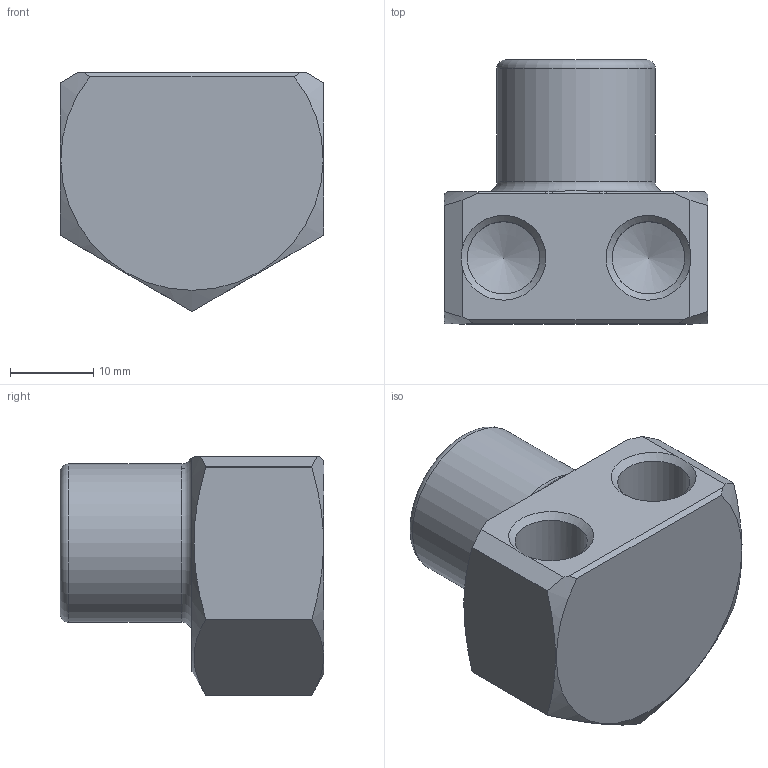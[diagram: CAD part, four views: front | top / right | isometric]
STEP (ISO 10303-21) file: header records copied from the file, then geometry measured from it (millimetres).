
FILE_DESCRIPTION(/* description */ (''),/* implementation_level */ '2;1');
FILE_NAME(/* name */ 'C:/Users/drich/Desktop/ET1418H v3.step',/* time_stamp */ '2019-11-18T13:37:41-06:00',/* author */ (''),/* organization */ (''),/* preprocessor_version */ 'ST-DEVELOPER v18',/* originating_system */ 'Autodesk Translation Framework v8.12.0.6',/* authorisation */ '');
FILE_SCHEMA (('AUTOMOTIVE_DESIGN { 1 0 10303 214 3 1 1 }'));
Length unit declared in the file: inch
Products named in the file (3): ET1418H; ET1418H_1; ET1418 INSERT
Assembly tree (2 placements, depth 2):
  ET1418H
    ET1418H_1
    ET1418 INSERT
Bounding box: 31.75 x 31.75 x 28.74 mm (x, y, z)
Volume: 12246.8 mm3; surface area: 6631.4 mm2
Topology: 2 solids, 2 shells, 89 faces, 249 edges, 162 vertices
Faces by surface type: cylinder 40, plane 20, cone 14, bspline 9, torus 6
Full cylindrical faces by diameter (mm): 6.909 x5, 7.938 x4, 8.707 x2, 10.998 x1, 11.062 x1, 11.668 x1, 19.05 x1
Entity records: 4221 total; most frequent: CARTESIAN_POINT 2032, ORIENTED_EDGE 492, DIRECTION 385, EDGE_CURVE 246, AXIS2_PLACEMENT_3D 163, VERTEX_POINT 162, EDGE_LOOP 96, B_SPLINE_CURVE_WITH_KNOTS 89
